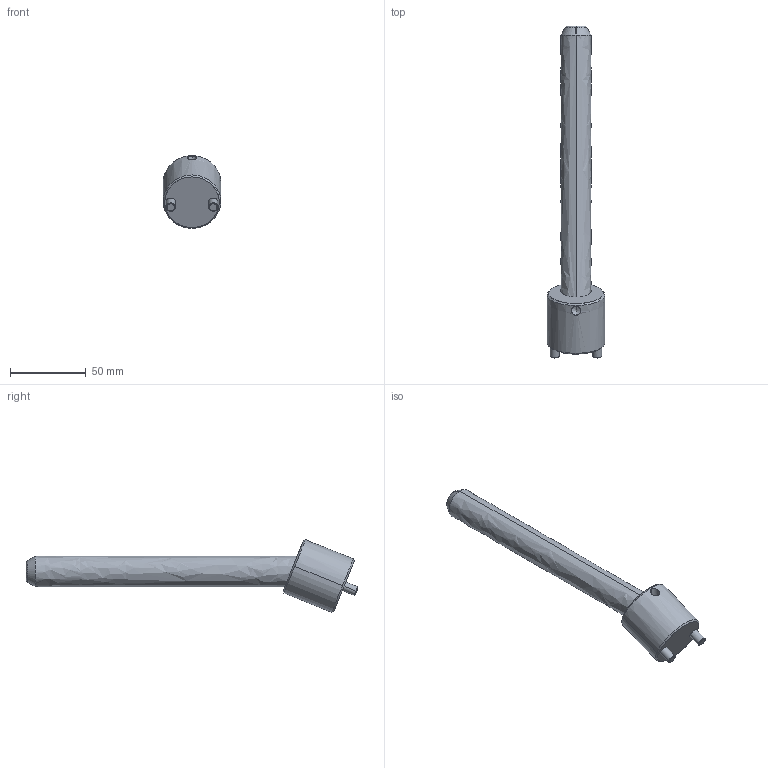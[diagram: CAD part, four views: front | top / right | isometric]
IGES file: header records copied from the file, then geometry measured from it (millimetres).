
Start section: START RECORD GO HERE.
Global section: file name: CI2220175.igs; native system: DASSAULT SYSTEMES CATIA V5 R20 - www.3ds.com; preprocessor: CATIA Version 5 Release 20 ; author: r.borello; organization: CFTORINO; date: 20190624.085106; units: millimetre
Bounding box: 38 x 219.16 x 47.97 mm (x, y, z)
Surface area: 22116.4 mm2 (no closed solid volume)
Topology: 0 solids, 0 shells, 39 faces, 162 edges, 160 vertices
Faces by surface type: revolution 32, plane 7
